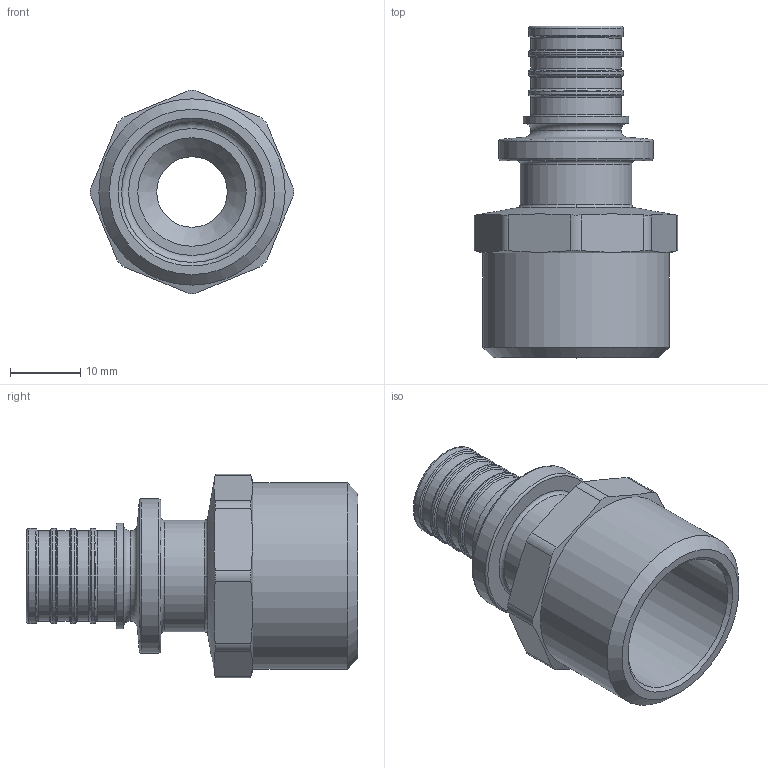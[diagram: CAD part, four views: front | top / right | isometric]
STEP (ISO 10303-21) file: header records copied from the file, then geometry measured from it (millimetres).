
FILE_DESCRIPTION(('STEP AP203'), '1');
FILE_NAME('ﾂﾐ.753137.005 - VTm.401.G.001605 ﾔ頸. 浯葢. G 3-4', '2024-01-23T12:57:20', ('IT'), ('VESTA'), 'C3D Converter', 'C3D Toolkit', '');
FILE_SCHEMA(('CONFIG_CONTROL_DESIGN'));
Length unit declared in the file: millimetre
Products named in the file (1): ВР.753137.005
Bounding box: 28.89 x 47.1 x 28.89 mm (x, y, z)
Volume: 8107.7 mm3; surface area: 6292.4 mm2
Topology: 1 solids, 1 shells, 67 faces, 148 edges, 87 vertices
Faces by surface type: torus 24, cylinder 22, plane 14, cone 7
Full cylindrical faces by diameter (mm): 10 x1, 12.8 x4, 13.5 x4, 15 x1, 15.8 x1, 20 x1, 21.9 x1, 26.441 x1
Entity records: 2842 total; most frequent: CARTESIAN_POINT 1533, DIRECTION 262, ORIENTED_EDGE 210, AXIS2_PLACEMENT_3D 123, EDGE_LOOP 116, EDGE_CURVE 105, VERTEX_POINT 87, FACE_OUTER_BOUND 78
